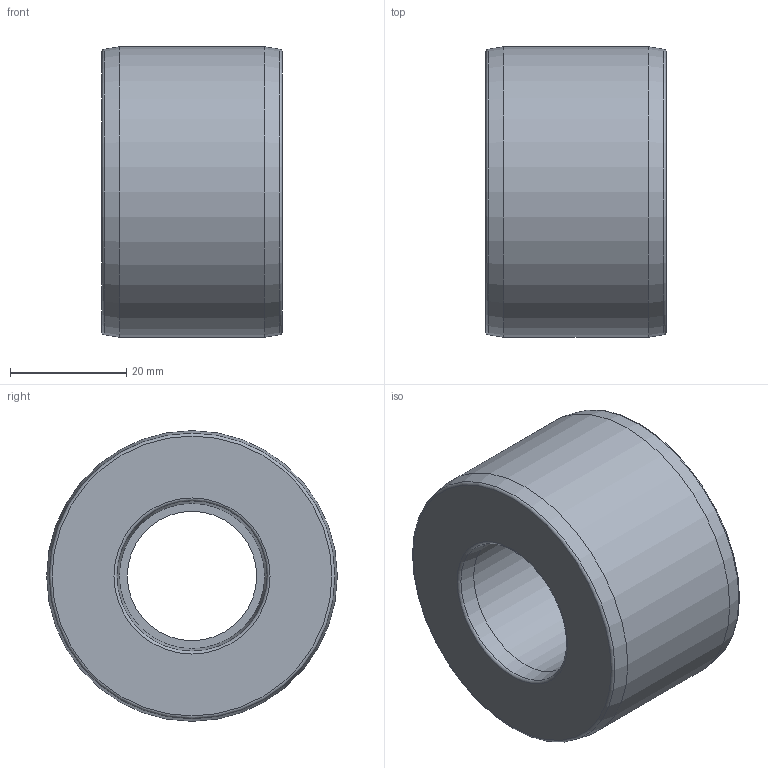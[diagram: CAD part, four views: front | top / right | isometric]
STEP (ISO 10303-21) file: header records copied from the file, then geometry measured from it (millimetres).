
FILE_DESCRIPTION(/* description */ ('PLASSON BUSHING-CEMENT PVC 50-25'),/* implementation_level */ '2;1');
FILE_NAME(/* name */ 'C:\Dropbox\KIMPROJECTS-Inventor\99-16-3568-Processing\PVC Catalog 2017\050900\050900050025.ipt.stp',/* time_stamp */ '2017-12-07T15:59:21+02:00',/* author */ ('KIM'),/* organization */ (''),/* preprocessor_version */ 'ST-DEVELOPER v15.6',/* originating_system */ 'Autodesk Inventor 2015',/* authorisation */ '');
FILE_SCHEMA (('AUTOMOTIVE_DESIGN { 1 0 10303 214 3 1 1 }'));
Length unit declared in the file: millimetre
Products named in the file (1): 050900050025
Bounding box: 31 x 50 x 50 mm (x, y, z)
Volume: 44384.8 mm3; surface area: 9914.8 mm2
Topology: 1 solids, 1 shells, 15 faces, 27 edges, 15 vertices
Faces by surface type: torus 5, cone 4, cylinder 3, plane 3
Full cylindrical faces by diameter (mm): 22.25 x1, 25 x1, 50 x1
Entity records: 332 total; most frequent: DIRECTION 62, CARTESIAN_POINT 46, AXIS2_PLACEMENT_3D 31, EDGE_LOOP 30, ORIENTED_EDGE 30, FACE_BOUND 15, FACE_OUTER_BOUND 15, CIRCLE 15
